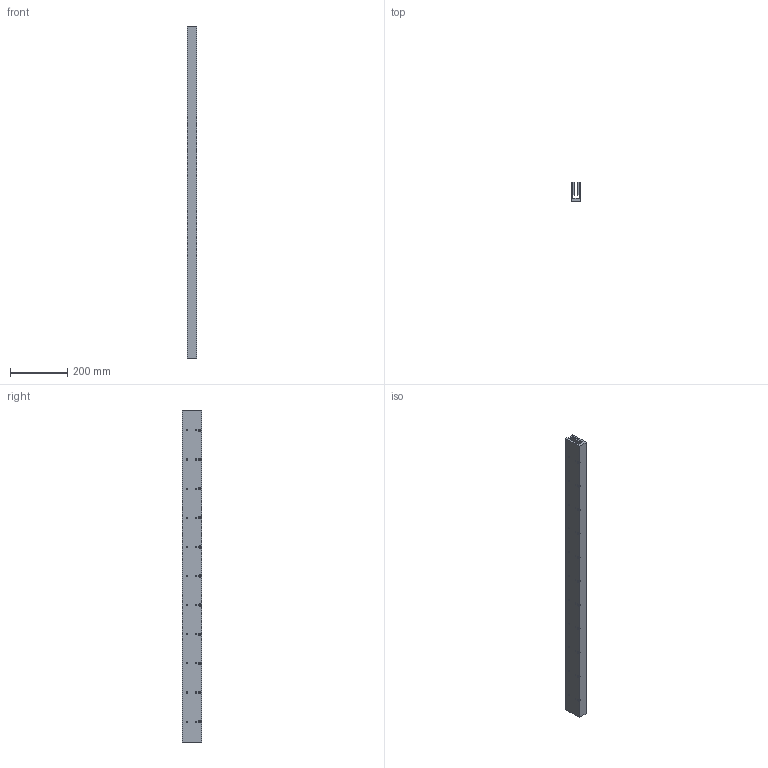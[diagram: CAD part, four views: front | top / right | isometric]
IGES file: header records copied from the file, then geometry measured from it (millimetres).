
Global section: file name: No Iges File Name specified; native system: Autodesk Inventor 2009; preprocessor: AutoDesk Inventor Iges Exporter R2009; author: je17857; date: 20091116.111614; units: inch
Bounding box: 34.29 x 67.31 x 1158.24 mm (x, y, z)
Volume: 1732357.7 mm3; surface area: 435495.4 mm2
Topology: 1 solids, 1 shells, 582 faces, 1398 edges, 932 vertices
Faces by surface type: plane 406, bspline 176
